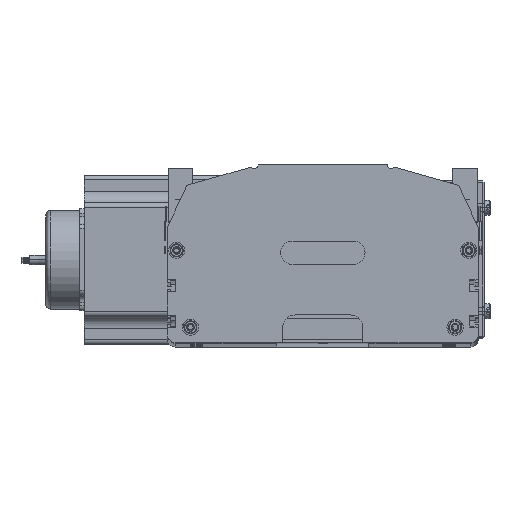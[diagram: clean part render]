
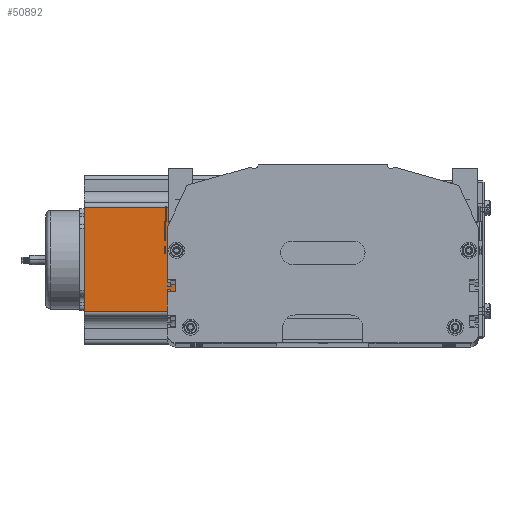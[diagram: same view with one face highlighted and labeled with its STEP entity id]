
A CAD part, top view. The second image highlights one B-rep face of the part: STEP entity #50892.
In plain terms, the highlighted planar face has unit normal (0, 0, 1) as drawn and (0, -1, 0) by its records, which use the part's own axes.
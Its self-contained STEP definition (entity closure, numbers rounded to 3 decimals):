
#50244 = VERTEX_POINT ( 'NONE', #85061 ) ;
#50289 = EDGE_LOOP ( 'NONE', ( #50895, #51628, #51688, #51864 ) ) ;
#50338 = VERTEX_POINT ( 'NONE', #85195 ) ;
#50892 = ADVANCED_FACE ( 'NONE', ( #73998 ), #73741, .F. ) ;
#50895 = ORIENTED_EDGE ( 'NONE', *, *, #50906, .T. ) ;
#50906 = EDGE_CURVE ( 'NONE', #50338, #50244, #84728, .T. ) ;
#51617 = EDGE_CURVE ( 'NONE', #50244, #51626, #86301, .T. ) ;
#51626 = VERTEX_POINT ( 'NONE', #86304 ) ;
#51628 = ORIENTED_EDGE ( 'NONE', *, *, #51617, .T. ) ;
#51631 = EDGE_CURVE ( 'NONE', #51865, #51626, #86308, .T. ) ;
#51688 = ORIENTED_EDGE ( 'NONE', *, *, #51631, .F. ) ;
#51690 = EDGE_CURVE ( 'NONE', #51865, #50338, #74117, .T. ) ;
#51864 = ORIENTED_EDGE ( 'NONE', *, *, #51690, .T. ) ;
#51865 = VERTEX_POINT ( 'NONE', #74394 ) ;
#73741 = PLANE ( 'NONE',  #74017 ) ;
#73998 = FACE_OUTER_BOUND ( 'NONE', #50289, .T. ) ;
#74014 = DIRECTION ( 'NONE',  ( 0., 0., 1. ) ) ;
#74015 = DIRECTION ( 'NONE',  ( 0., 1., 0. ) ) ;
#74016 = CARTESIAN_POINT ( 'NONE',  ( 0., 0., 160.5 ) ) ;
#74017 = AXIS2_PLACEMENT_3D ( 'NONE', #74016, #74015, #74014 ) ;
#74102 = DIRECTION ( 'NONE',  ( 0., 0., -1. ) ) ;
#74103 = VECTOR ( 'NONE', #74102, 1000. ) ;
#74104 = CARTESIAN_POINT ( 'NONE',  ( 21.048, 0., 160.5 ) ) ;
#74117 = LINE ( 'NONE', #74104, #74103 ) ;
#74394 = CARTESIAN_POINT ( 'NONE',  ( 21.048, 0., 160.5 ) ) ;
#84728 = LINE ( 'NONE', #85042, #85059 ) ;
#85042 = CARTESIAN_POINT ( 'NONE',  ( 0., 0., 0. ) ) ;
#85058 = DIRECTION ( 'NONE',  ( 1., 0., 0. ) ) ;
#85059 = VECTOR ( 'NONE', #85058, 1000. ) ;
#85061 = CARTESIAN_POINT ( 'NONE',  ( 88.952, 0., 0. ) ) ;
#85195 = CARTESIAN_POINT ( 'NONE',  ( 21.048, 0., 0. ) ) ;
#86293 = DIRECTION ( 'NONE',  ( 1., 0., 0. ) ) ;
#86294 = VECTOR ( 'NONE', #86293, 1000. ) ;
#86298 = DIRECTION ( 'NONE',  ( 0., 0., 1. ) ) ;
#86299 = VECTOR ( 'NONE', #86298, 1000. ) ;
#86300 = CARTESIAN_POINT ( 'NONE',  ( 88.952, 0., 160.5 ) ) ;
#86301 = LINE ( 'NONE', #86300, #86299 ) ;
#86304 = CARTESIAN_POINT ( 'NONE',  ( 88.952, 0., 160.5 ) ) ;
#86307 = CARTESIAN_POINT ( 'NONE',  ( 0., 0., 160.5 ) ) ;
#86308 = LINE ( 'NONE', #86307, #86294 ) ;
